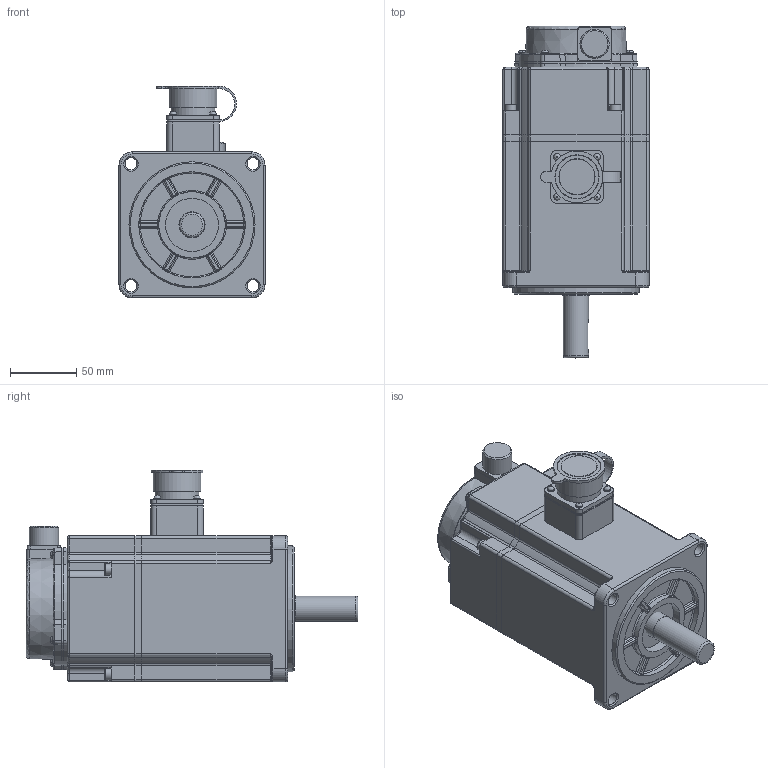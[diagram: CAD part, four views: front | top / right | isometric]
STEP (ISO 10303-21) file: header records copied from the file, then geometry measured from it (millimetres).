
FILE_DESCRIPTION(/* description */ (''),/* implementation_level */ '2;1');
FILE_NAME(/* name */ '磁编6N.stp',/* time_stamp */ '2024-04-19T14:22:44+08:00',/* author */ (''),/* organization */ (''),/* preprocessor_version */ 'ST-DEVELOPER v18.1',/* originating_system */ 'SIEMENS PLM Software NX 2000',/* authorisation */ '');
FILE_SCHEMA (('AUTOMOTIVE_DESIGN { 1 0 10303 214 3 1 1 1 }'));
Length unit declared in the file: millimetre
Products named in the file (1): 92504378DBD25yaf
Bounding box: 110 x 249.99 x 159.5 mm (x, y, z)
Volume: 1949597.9 mm3; surface area: 230859.4 mm2
Topology: 22 solids, 24 shells, 1066 faces, 2511 edges, 1483 vertices
Faces by surface type: cylinder 393, plane 348, torus 104, bspline 93, cone 68, sphere 60
Full cylindrical faces by diameter (mm): 2 x4, 2.5 x8, 4.1 x8, 4.2 x3, 4.826 x4, 5 x10, 5.5 x3, 8.5 x4, 9 x4, 19 x1, 19.6 x1, 20 x1, 22 x1, 22.288 x1, 24.616 x1, 27 x2, 28 x1, 30 x1, 33 x3, 35 x1, 36 x1, 40 x2, 84 x1, 95 x1, 100 x1, 101.4 x1, 104 x3
Entity records: 32381 total; most frequent: CARTESIAN_POINT 8869, DIRECTION 5102, ORIENTED_EDGE 4540, EDGE_CURVE 2270, AXIS2_PLACEMENT_3D 2097, VERTEX_POINT 1431, EDGE_LOOP 1301, CIRCLE 1099
